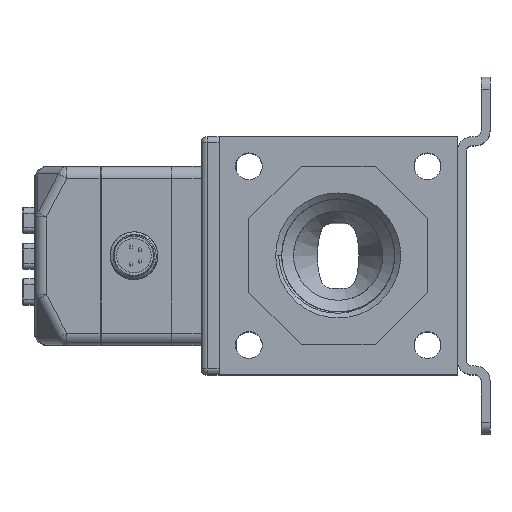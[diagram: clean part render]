
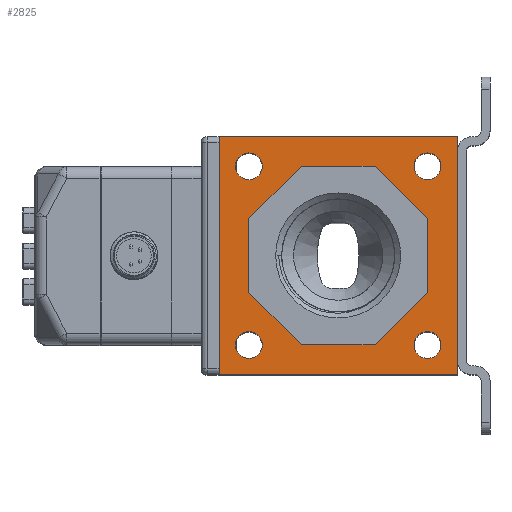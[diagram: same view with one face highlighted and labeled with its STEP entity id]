
A CAD part, top view. The second image highlights one B-rep face of the part: STEP entity #2825.
In plain terms, the highlighted planar face has unit normal (0, 0, 1).
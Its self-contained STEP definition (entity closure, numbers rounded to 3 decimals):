
#1709=FACE_BOUND('',#5445,.T.);
#1710=FACE_BOUND('',#5446,.T.);
#1711=FACE_BOUND('',#5447,.T.);
#1712=FACE_BOUND('',#5448,.T.);
#1713=FACE_BOUND('',#5449,.T.);
#1714=FACE_BOUND('',#5450,.T.);
#2178=CIRCLE('',#20486,2.25);
#2180=CIRCLE('',#20489,2.25);
#2182=CIRCLE('',#20492,2.25);
#2184=CIRCLE('',#20495,2.25);
#2825=ADVANCED_FACE('',(#1709,#1710,#1711,#1712,#1713,#1714),#3794,.F.);
#3794=PLANE('',#20498);
#5445=EDGE_LOOP('',(#7619,#7620,#7621,#7622,#7623,#7624,#7625,#7626));
#5446=EDGE_LOOP('',(#7627,#7628,#7629,#7630));
#5447=EDGE_LOOP('',(#7631));
#5448=EDGE_LOOP('',(#7632));
#5449=EDGE_LOOP('',(#7633));
#5450=EDGE_LOOP('',(#7634));
#7619=ORIENTED_EDGE('',*,*,#14176,.F.);
#7620=ORIENTED_EDGE('',*,*,#14179,.F.);
#7621=ORIENTED_EDGE('',*,*,#14181,.F.);
#7622=ORIENTED_EDGE('',*,*,#14183,.F.);
#7623=ORIENTED_EDGE('',*,*,#14185,.F.);
#7624=ORIENTED_EDGE('',*,*,#14187,.F.);
#7625=ORIENTED_EDGE('',*,*,#14189,.F.);
#7626=ORIENTED_EDGE('',*,*,#14191,.F.);
#7627=ORIENTED_EDGE('',*,*,#14202,.F.);
#7628=ORIENTED_EDGE('',*,*,#14199,.F.);
#7629=ORIENTED_EDGE('',*,*,#14196,.F.);
#7630=ORIENTED_EDGE('',*,*,#14193,.F.);
#7631=ORIENTED_EDGE('',*,*,#14208,.F.);
#7632=ORIENTED_EDGE('',*,*,#14206,.F.);
#7633=ORIENTED_EDGE('',*,*,#14204,.F.);
#7634=ORIENTED_EDGE('',*,*,#14210,.F.);
#12199=VERTEX_POINT('',#29127);
#12200=VERTEX_POINT('',#29128);
#12201=VERTEX_POINT('',#29133);
#12202=VERTEX_POINT('',#29137);
#12203=VERTEX_POINT('',#29141);
#12204=VERTEX_POINT('',#29145);
#12205=VERTEX_POINT('',#29149);
#12206=VERTEX_POINT('',#29153);
#12208=VERTEX_POINT('',#29160);
#12209=VERTEX_POINT('',#29162);
#12211=VERTEX_POINT('',#29168);
#12213=VERTEX_POINT('',#29174);
#12215=VERTEX_POINT('',#29183);
#12217=VERTEX_POINT('',#29188);
#12219=VERTEX_POINT('',#29193);
#12221=VERTEX_POINT('',#29198);
#14176=EDGE_CURVE('',#12199,#12200,#16707,.T.);
#14179=EDGE_CURVE('',#12201,#12199,#16710,.T.);
#14181=EDGE_CURVE('',#12202,#12201,#16712,.T.);
#14183=EDGE_CURVE('',#12203,#12202,#16714,.T.);
#14185=EDGE_CURVE('',#12204,#12203,#16716,.T.);
#14187=EDGE_CURVE('',#12205,#12204,#16718,.T.);
#14189=EDGE_CURVE('',#12206,#12205,#16720,.T.);
#14191=EDGE_CURVE('',#12200,#12206,#16722,.T.);
#14193=EDGE_CURVE('',#12208,#12209,#16724,.T.);
#14196=EDGE_CURVE('',#12209,#12211,#16727,.T.);
#14199=EDGE_CURVE('',#12211,#12213,#16730,.T.);
#14202=EDGE_CURVE('',#12213,#12208,#16733,.T.);
#14204=EDGE_CURVE('',#12215,#12215,#2178,.T.);
#14206=EDGE_CURVE('',#12217,#12217,#2180,.T.);
#14208=EDGE_CURVE('',#12219,#12219,#2182,.T.);
#14210=EDGE_CURVE('',#12221,#12221,#2184,.T.);
#16707=LINE('',#29126,#18620);
#16710=LINE('',#29132,#18623);
#16712=LINE('',#29136,#18625);
#16714=LINE('',#29140,#18627);
#16716=LINE('',#29144,#18629);
#16718=LINE('',#29148,#18631);
#16720=LINE('',#29152,#18633);
#16722=LINE('',#29156,#18635);
#16724=LINE('',#29161,#18637);
#16727=LINE('',#29167,#18640);
#16730=LINE('',#29173,#18643);
#16733=LINE('',#29179,#18646);
#18620=VECTOR('',#22791,1.);
#18623=VECTOR('',#22796,1.);
#18625=VECTOR('',#22800,1.);
#18627=VECTOR('',#22804,1.);
#18629=VECTOR('',#22808,1.);
#18631=VECTOR('',#22812,1.);
#18633=VECTOR('',#22816,1.);
#18635=VECTOR('',#22820,1.);
#18637=VECTOR('',#22824,1.);
#18640=VECTOR('',#22829,1.);
#18643=VECTOR('',#22834,1.);
#18646=VECTOR('',#22839,1.);
#20486=AXIS2_PLACEMENT_3D('',#29182,#22843,#22844);
#20489=AXIS2_PLACEMENT_3D('',#29187,#22849,#22850);
#20492=AXIS2_PLACEMENT_3D('',#29192,#22855,#22856);
#20495=AXIS2_PLACEMENT_3D('',#29197,#22861,#22862);
#20498=AXIS2_PLACEMENT_3D('',#29202,#22867,#22868);
#22791=DIRECTION('',(0.,-1.,0.));
#22796=DIRECTION('',(-0.707,-0.707,0.));
#22800=DIRECTION('',(-1.,0.,0.));
#22804=DIRECTION('',(-0.707,0.707,0.));
#22808=DIRECTION('',(0.,1.,0.));
#22812=DIRECTION('',(0.707,0.707,0.));
#22816=DIRECTION('',(1.,0.,0.));
#22820=DIRECTION('',(0.707,-0.707,0.));
#22824=DIRECTION('',(0.,1.,0.));
#22829=DIRECTION('',(1.,0.,0.));
#22834=DIRECTION('',(0.,-1.,0.));
#22839=DIRECTION('',(-1.,0.,0.));
#22843=DIRECTION('',(0.,0.,1.));
#22844=DIRECTION('',(1.,0.,0.));
#22849=DIRECTION('',(0.,0.,1.));
#22850=DIRECTION('',(1.,0.,0.));
#22855=DIRECTION('',(0.,0.,1.));
#22856=DIRECTION('',(1.,0.,0.));
#22861=DIRECTION('',(0.,0.,1.));
#22862=DIRECTION('',(1.,0.,0.));
#22867=DIRECTION('',(0.,0.,-1.));
#22868=DIRECTION('',(1.,0.,0.));
#29126=CARTESIAN_POINT('',(7.,15.787,-1.));
#29127=CARTESIAN_POINT('',(7.,28.213,-1.));
#29128=CARTESIAN_POINT('',(7.,15.787,-1.));
#29132=CARTESIAN_POINT('',(7.,28.213,-1.));
#29133=CARTESIAN_POINT('',(15.787,37.,-1.));
#29136=CARTESIAN_POINT('',(15.787,37.,-1.));
#29137=CARTESIAN_POINT('',(28.213,37.,-1.));
#29140=CARTESIAN_POINT('',(28.213,37.,-1.));
#29141=CARTESIAN_POINT('',(37.,28.213,-1.));
#29144=CARTESIAN_POINT('',(37.,28.213,-1.));
#29145=CARTESIAN_POINT('',(37.,15.787,-1.));
#29148=CARTESIAN_POINT('',(37.,15.787,-1.));
#29149=CARTESIAN_POINT('',(28.213,7.,-1.));
#29152=CARTESIAN_POINT('',(28.213,7.,-1.));
#29153=CARTESIAN_POINT('',(15.787,7.,-1.));
#29156=CARTESIAN_POINT('',(15.787,7.,-1.));
#29160=CARTESIAN_POINT('',(2.,2.,-1.));
#29161=CARTESIAN_POINT('',(2.,42.,-1.));
#29162=CARTESIAN_POINT('',(2.,42.,-1.));
#29167=CARTESIAN_POINT('',(44.5,42.,-1.));
#29168=CARTESIAN_POINT('',(42.,42.,-1.));
#29173=CARTESIAN_POINT('',(42.,-0.5,-1.));
#29174=CARTESIAN_POINT('',(42.,2.,-1.));
#29179=CARTESIAN_POINT('',(-0.5,2.,-1.));
#29182=CARTESIAN_POINT('',(7.,37.,-1.));
#29183=CARTESIAN_POINT('',(9.25,37.,-1.));
#29187=CARTESIAN_POINT('',(37.,7.,-1.));
#29188=CARTESIAN_POINT('',(39.25,7.,-1.));
#29192=CARTESIAN_POINT('',(37.,37.,-1.));
#29193=CARTESIAN_POINT('',(39.25,37.,-1.));
#29197=CARTESIAN_POINT('',(7.,7.,-1.));
#29198=CARTESIAN_POINT('',(9.25,7.,-1.));
#29202=CARTESIAN_POINT('',(22.,22.,-1.));
